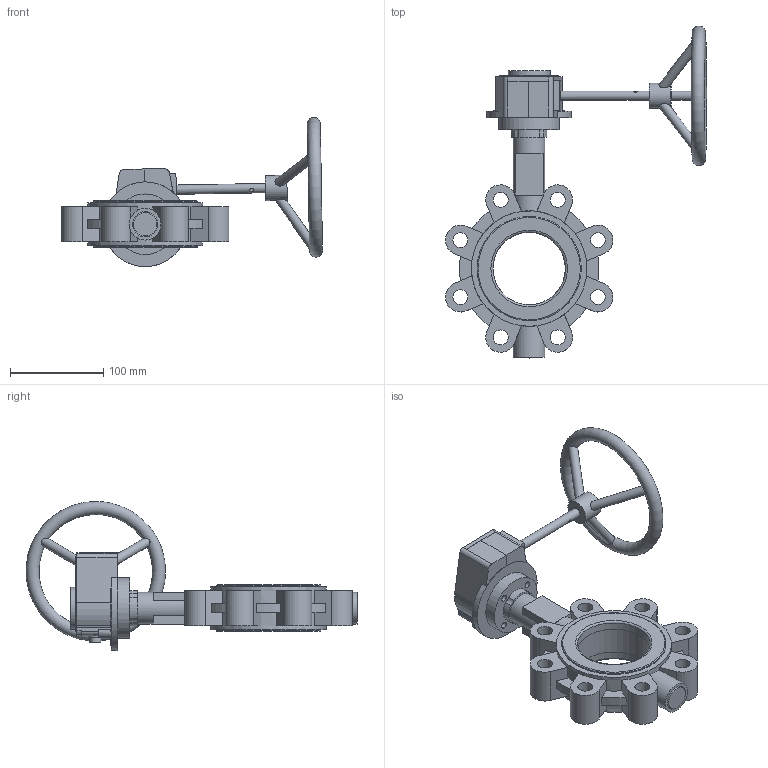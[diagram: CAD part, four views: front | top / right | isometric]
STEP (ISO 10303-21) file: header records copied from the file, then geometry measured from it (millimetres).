
FILE_DESCRIPTION (( 'STEP AP203' ), '1' );
FILE_NAME ('2502 LT型中线衬胶带销 手动头蝶阀 DN80 PN25 CD0309056.STEP', '2026-03-25T02:17:43', ( '' ), ( '' ), 'SwSTEP 2.0', 'SolidWorks 2018', '' );
FILE_SCHEMA (( 'CONFIG_CONTROL_DESIGN' ));
Length unit declared in the file: millimetre
Products named in the file (5): 2502 LT型中线衬胶带销 手动头蝶阀 DN80 PN25 CD0309056; DIN908 塞堵M20×1.5; G12L忒雄芛 潠趙; GALA-D80-04AZC-00; GALA-D80-01LC25-00
Assembly tree (4 placements, depth 2):
  2502 LT型中线衬胶带销 手动头蝶阀 DN80 PN25 CD0309056
    GALA-D80-01LC25-00
    GALA-D80-04AZC-00
    DIN908 塞堵M20×1.5
    G12L忒雄芛 潠趙
Bounding box: 280.39 x 356.5 x 160.17 mm (x, y, z)
Volume: 1140444.1 mm3; surface area: 223736.8 mm2
Topology: 5 solids, 10 shells, 301 faces, 787 edges, 517 vertices
Faces by surface type: plane 142, cylinder 135, torus 9, cone 7, bspline 6, sphere 2
Full cylindrical faces by diameter (mm): 4 x1, 7 x4, 10 x5, 12 x2, 16 x8, 20 x1, 25 x1, 27 x2, 31.6 x1, 34 x3, 45 x1, 65 x1, 77.716 x1, 87 x2, 91 x1, 112 x4, 124 x2
Entity records: 10733 total; most frequent: CARTESIAN_POINT 3185, ORIENTED_EDGE 1434, DIRECTION 1432, EDGE_CURVE 717, AXIS2_PLACEMENT_3D 546, VERTEX_POINT 503, EDGE_LOOP 404, FACE_OUTER_BOUND 348
